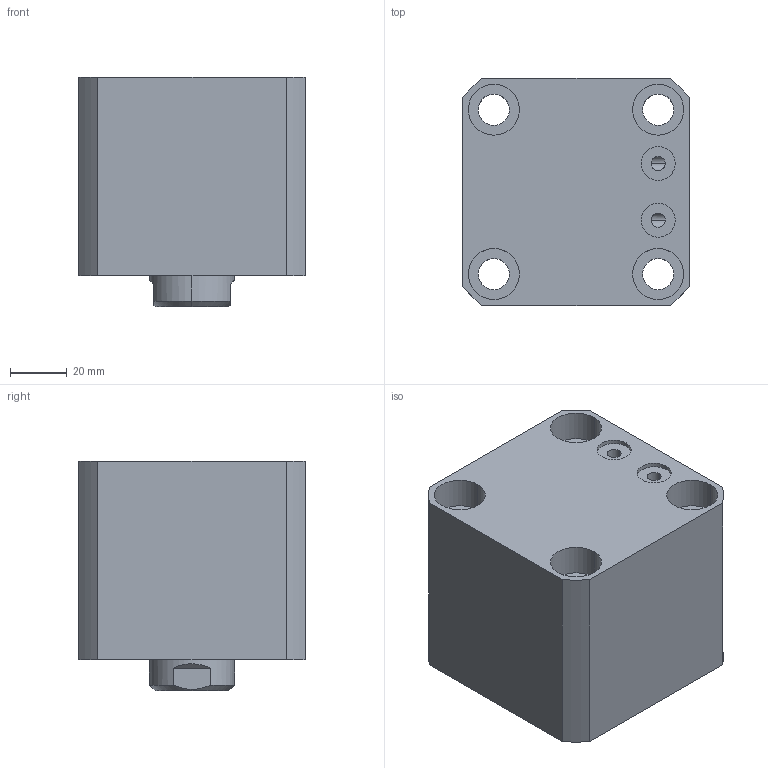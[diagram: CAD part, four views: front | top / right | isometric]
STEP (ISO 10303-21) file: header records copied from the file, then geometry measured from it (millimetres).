
FILE_DESCRIPTION (( 'STEP AP203' ), '1' );
FILE_NAME ('CHTB-SDMA50-10N.STEP', '2018-05-19T03:26:18', ( '' ), ( '' ), 'SwSTEP 2.0', 'SolidWorks 2015', '' );
FILE_SCHEMA (( 'CONFIG_CONTROL_DESIGN' ));
Length unit declared in the file: millimetre
Products named in the file (5): CHTB-SDMA50-10N; M6; 掛极SDMB50-10N; 活塞杆SDMB50-10N; CHTM-SDMA50QG
Assembly tree (5 placements, depth 2):
  CHTB-SDMA50-10N
    掛极SDMB50-10N
    活塞杆SDMB50-10N
    M6  x2
    CHTM-SDMA50QG
Bounding box: 80 x 80 x 81 mm (x, y, z)
Volume: 381562.4 mm3; surface area: 86419.9 mm2
Topology: 5 solids, 5 shells, 263 faces, 693 edges, 458 vertices
Faces by surface type: cylinder 135, plane 55, cone 31, bspline 26, torus 16
Entity records: 13963 total; most frequent: CARTESIAN_POINT 8102, ORIENTED_EDGE 1188, DIRECTION 1016, EDGE_CURVE 594, AXIS2_PLACEMENT_3D 416, VERTEX_POINT 397, EDGE_LOOP 269, FACE_OUTER_BOUND 228
